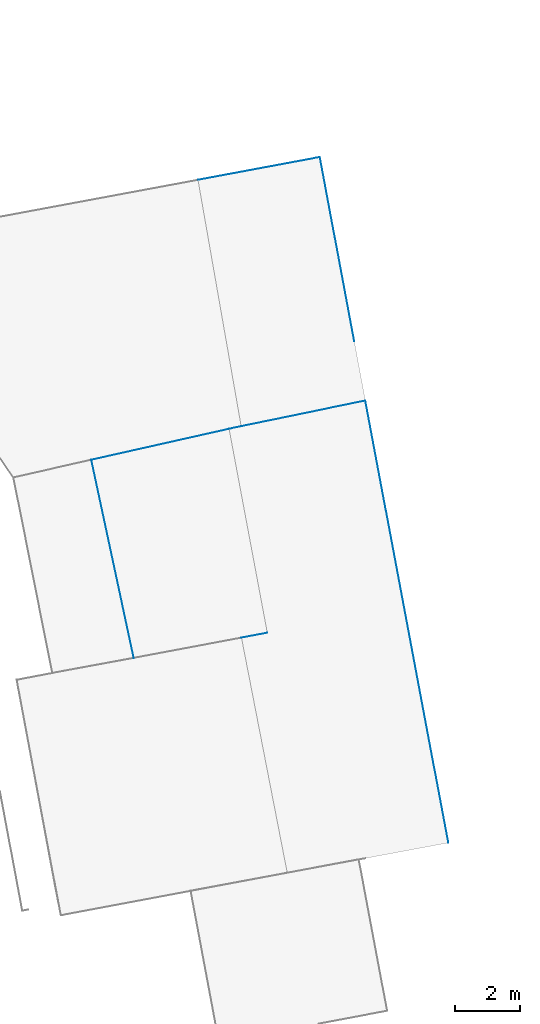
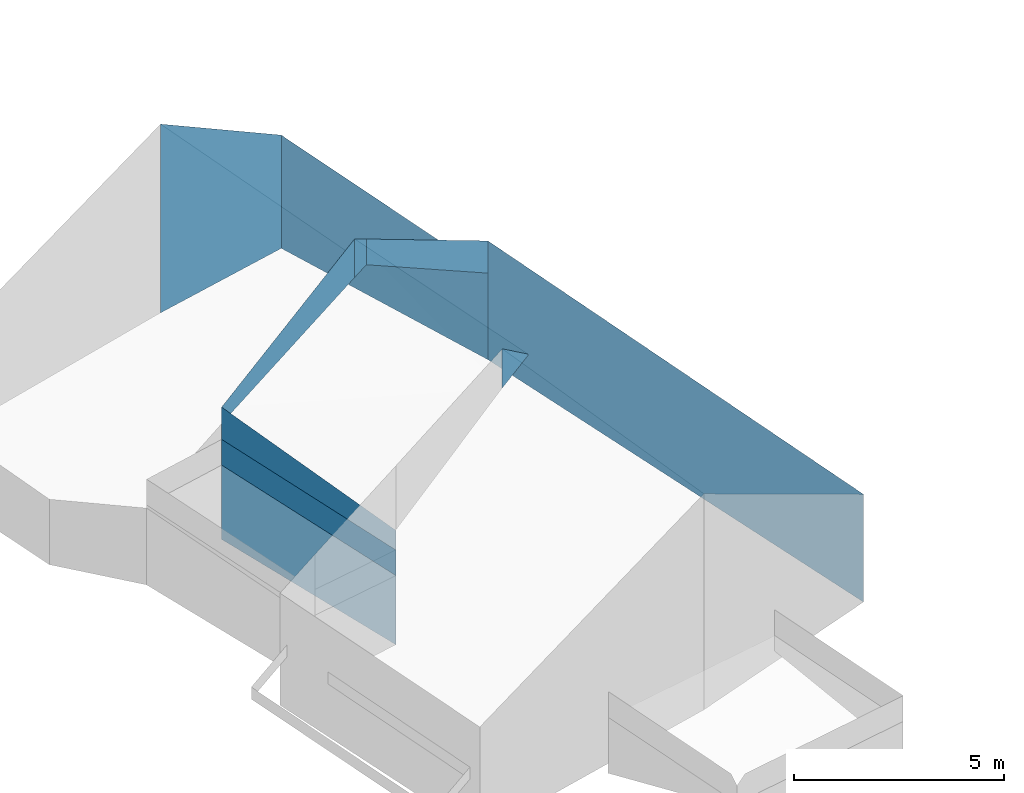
# Not in any storey, part 16 of 57: 11 walls.
"""IFC2X3 building model written with IfcOpenShell, lengths in metres."""

import ifcopenshell
import ifcopenshell.guid

model = None  # the IFC model being written
_history = None  # IfcOwnerHistory: only IFC2X3 demands one
_inside = {}  # id of a spatial element -> (the spatial element, [elements in it])
_under = {}  # id of a project, library or spatial element -> (it, [spatial elements below it])
_declared = {}  # id of a project -> (the project, [libraries it declares])
_typed = {}  # id of a type object -> (the type object, [elements of that type])
_made_of = {}  # id of a material, layer set ... -> (it, [elements and type objects made of it])


def new_model(schema):
    """Start an empty IFC model of exactly this schema.

    Asked for "IFC4X3", IfcOpenShell would pick the latest addendum, in which some entities
    have other attributes; the version numbers below select the first issue.
    IFC2X3 requires an IfcOwnerHistory on every rooted entity: one is made here for all.
    """
    global model, _history
    if schema == "IFC4X3":
        model = ifcopenshell.file(schema_version=(4, 3, 0, 0))
    else:
        model = ifcopenshell.file(schema=schema)
    _inside.clear()
    _under.clear()
    _declared.clear()
    _typed.clear()
    _made_of.clear()
    _history = None
    if model.schema == "IFC2X3":
        org = make("IfcOrganization", Name="unknown")
        user = make(
            "IfcPersonAndOrganization",
            ThePerson=make("IfcPerson", FamilyName="unknown"),
            TheOrganization=org,
        )
        app = make(
            "IfcApplication",
            ApplicationDeveloper=org,
            Version="unknown",
            ApplicationFullName="unknown",
            ApplicationIdentifier="unknown",
        )
        _history = make(
            "IfcOwnerHistory",
            OwningUser=user,
            OwningApplication=app,
            ChangeAction="ADDED",
            CreationDate=0,
        )
    return model


def make(cls, **values):
    """One entity of the class cls with the attributes given. An attribute that is None is left unset."""
    return model.create_entity(
        cls, **{name: value for name, value in values.items() if value is not None}
    )


def entity(cls, *values):
    """Any entity or typed value of the class cls, its attributes in the order of the schema. None: left unset."""
    e = model.create_entity(cls)
    for i, value in enumerate(values):
        if value is not None:
            e[i] = value
    return e


def rooted(cls, **values):
    """An entity with a GlobalId (a new one), such as an element, a storey or a relation."""
    return make(cls, GlobalId=ifcopenshell.guid.new(), OwnerHistory=_history, **values)


def si_unit(unit_type, name, prefix=None):
    """IfcSIUnit, for example si_unit("LENGTHUNIT", "METRE", prefix="MILLI")."""
    return make("IfcSIUnit", UnitType=unit_type, Prefix=prefix, Name=name)


def converted_unit(unit_type, name, factor, base, dimensions=None, offset=None):
    """IfcConversionBasedUnit, such as the inch: factor (a typed value) times the base unit."""
    return make(
        "IfcConversionBasedUnit"
        if offset is None
        else "IfcConversionBasedUnitWithOffset",
        ConversionOffset=offset,
        Dimensions=None
        if dimensions is None
        else entity("IfcDimensionalExponents", *dimensions),
        UnitType=unit_type,
        Name=name,
        ConversionFactor=make(
            "IfcMeasureWithUnit", ValueComponent=factor, UnitComponent=base
        ),
    )


def assignment(units):
    """IfcUnitAssignment: the units of a project."""
    return None if units is None else make("IfcUnitAssignment", Units=units)


def point(xyz):
    """IfcCartesianPoint."""
    return None if xyz is None else make("IfcCartesianPoint", Coordinates=xyz)


def direction(xyz):
    """IfcDirection."""
    return None if xyz is None else make("IfcDirection", DirectionRatios=xyz)


def frame(location, z_axis=None, x_axis=None):
    """IfcAxis2Placement3D, a coordinate frame: its origin and axes. An axis left out is left unset."""
    return make(
        "IfcAxis2Placement3D",
        Location=point(location),
        Axis=direction(z_axis),
        RefDirection=direction(x_axis),
    )


def origin():
    """The frame at (0, 0, 0) with its axes left unset."""
    return frame((0.0, 0.0, 0.0))


def place(relative_to, where):
    """IfcLocalPlacement: puts the frame where relative to a parent placement (None: the world)."""
    return make(
        "IfcLocalPlacement", PlacementRelTo=relative_to, RelativePlacement=where
    )


def context(
    kind, dimensions, precision=None, world=None, true_north=None, identifier=None
):
    """IfcGeometricRepresentationContext, for example the 3D "Model" context."""
    return make(
        "IfcGeometricRepresentationContext",
        ContextIdentifier=identifier,
        ContextType=kind,
        CoordinateSpaceDimension=dimensions,
        Precision=precision,
        WorldCoordinateSystem=world,
        TrueNorth=true_north,
    )


def subcontext(parent, identifier, kind, view, scale=None):
    """IfcGeometricRepresentationSubContext, for example "Body" below "Model"."""
    return make(
        "IfcGeometricRepresentationSubContext",
        ContextIdentifier=identifier,
        ContextType=kind,
        ParentContext=parent,
        TargetScale=scale,
        TargetView=view,
    )


def project(units=None, contexts=None):
    """IfcProject with its units and contexts."""
    return rooted(
        "IfcProject",
        Name="project",
        RepresentationContexts=contexts,
        UnitsInContext=assignment(units),
    )


def spatial(cls, under=None, at=None, **own):
    """A site, building, storey or space (cls), placed at a placement, below another one or the project."""
    s = rooted(cls, ObjectPlacement=at, **own)
    if under is not None:
        _under.setdefault(under.id(), (under, []))[1].append(s)
    return s


def faces_of(points, faces, orient=None, outer=None):
    """IfcFace entities. A face is a list of loops; a loop is a list of indices into points, from 0.

    orient and outer hold one flag for each loop. By default every Orientation is true, the
    first loop of a face is its IfcFaceOuterBound and the others are IfcFaceBound.
    """
    made = []
    for i, loops in enumerate(faces):
        bounds = []
        for j, loop in enumerate(loops):
            is_outer = j == 0 if outer is None else outer[i][j]
            bounds.append(
                make(
                    "IfcFaceOuterBound" if is_outer else "IfcFaceBound",
                    Bound=make("IfcPolyLoop", Polygon=[points[k] for k in loop]),
                    Orientation=True if orient is None else orient[i][j],
                )
            )
        made.append(make("IfcFace", Bounds=bounds))
    return made


def face_set(faces, orient=None, outer=None):
    """The faces of one IfcConnectedFaceSet. surface_model builds it on its shared points."""
    return ("IfcConnectedFaceSet", faces, orient, outer)


def surface_model(cls, points, shells):
    """IfcFaceBasedSurfaceModel or IfcShellBasedSurfaceModel (cls): surfaces that need not close."""
    shared = [point(p) for p in points]
    made = [make(c, CfsFaces=faces_of(shared, fs, o, b)) for c, fs, o, b in shells]
    if cls == "IfcFaceBasedSurfaceModel":
        return make(cls, FbsmFaces=made)
    return make(cls, SbsmBoundary=made)


def shape(context_of_items, identifier, shape_type, items):
    """IfcShapeRepresentation: the items that make up one representation, for example the "Body"."""
    return make(
        "IfcShapeRepresentation",
        ContextOfItems=context_of_items,
        RepresentationIdentifier=identifier,
        RepresentationType=shape_type,
        Items=items,
    )


def made_of(thing, what):
    """Note that an element or type object is made of a material, layer set ...; save() writes the relation."""
    if what is not None:
        _made_of.setdefault(what.id(), (what, []))[1].append(thing)
    return thing


def element(
    cls,
    number,
    at=None,
    inside=None,
    cuts=None,
    type_object=None,
    material=None,
    context=None,
    identifier="Body",
    shape_type=None,
    held_by="IfcProductDefinitionShape",
    body=None,
    shapes=None,
    **own,
):
    """One element of the class cls, such as IfcWall. Its Tag is "e" and its number.

    at: its placement. inside: the storey or other place that contains it. cuts: it is an
    opening in that element (IfcRelVoidsElement). A single representation is given by context,
    identifier, shape_type and body (its items); several are given by shapes. held_by: the class
    of the entity that holds the representations. save() writes the other relations.
    """
    e = rooted(cls, Tag="e%d" % number, ObjectPlacement=at, **own)
    if body is not None:
        shapes = [shape(context, identifier, shape_type, body)]
    if shapes is not None:
        e.Representation = make(held_by, Representations=shapes)
    if inside is not None:
        _inside.setdefault(inside.id(), (inside, []))[1].append(e)
    if cuts is not None:
        rooted(
            "IfcRelVoidsElement", RelatingBuildingElement=cuts, RelatedOpeningElement=e
        )
    if type_object is not None:
        _typed.setdefault(type_object.id(), (type_object, []))[1].append(e)
    return made_of(e, material)


def aggregate(whole, parts):
    """IfcRelAggregates: a whole, such as a stair, and the parts it consists of."""
    return rooted("IfcRelAggregates", RelatingObject=whole, RelatedObjects=parts)


def save(model, path):
    """Write the relations noted so far, then the file.

    IfcRelAggregates (storeys below a building ...), IfcRelContainedInSpatialStructure (elements
    in a storey), IfcRelDefinesByType, IfcRelAssociatesMaterial and IfcRelDeclares: one each for
    every whole, place, type object, material and project.
    """
    for whole, parts in _under.values():
        aggregate(whole, parts)
    for where, things in _inside.values():
        rooted(
            "IfcRelContainedInSpatialStructure",
            RelatedElements=things,
            RelatingStructure=where,
        )
    for kind, things in _typed.values():
        rooted("IfcRelDefinesByType", RelatedObjects=things, RelatingType=kind)
    for what, things in _made_of.values():
        rooted("IfcRelAssociatesMaterial", RelatedObjects=things, RelatingMaterial=what)
    for by, libraries in _declared.values():
        rooted("IfcRelDeclares", RelatingContext=by, RelatedDefinitions=libraries)
    model.write(path)


model = new_model("IFC2X3")

# Units and contexts
model_context = context("Model", 3, precision=1e-05, world=origin())
body_context = subcontext(model_context, "Body", "Model", "MODEL_VIEW")
ifc_project = project(units=[converted_unit("PLANEANGLEUNIT", "DEGREE", entity("IfcRatioMeasure", 0.0174532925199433), si_unit("PLANEANGLEUNIT", "RADIAN"), dimensions=[0, 0, 0, 0, 0, 0, 0]), si_unit("AREAUNIT", "SQUARE_METRE"), si_unit("LENGTHUNIT", "METRE")], contexts=[model_context])

# Site, building
site_placement = place(None, origin())
site = spatial("IfcSite", under=ifc_project, at=site_placement, Name="_site", CompositionType="ELEMENT")
building_placement = place(site_placement, origin())
building = spatial("IfcBuilding", under=site, at=building_placement, Name="_building", CompositionType="ELEMENT")

# Walls
wall_1_placement = place(building_placement, origin())
element("IfcWall", 1, at=wall_1_placement, inside=building, Name="Wall", context=body_context, shape_type="SurfaceModel", body=[
    surface_model("IfcFaceBasedSurfaceModel", [(180.04, 36.561, 226.04), (180.83, 36.711, 225.52), (180.83, 36.711, 225.47), (180.04, 36.561, 224.893)], [face_set([[[0, 1, 2, 3]]])]),
])
wall_2_placement = place(building_placement, origin())
element("IfcWall", 2, at=wall_2_placement, inside=building, Name="Wall", context=body_context, shape_type="SurfaceModel", body=[
    surface_model("IfcFaceBasedSurfaceModel", [(179.66, 42.948, 225.5), (180.03, 43.028, 225.319), (180.03, 43.028, 224.57), (179.66, 42.948, 224.376)], [face_set([[[0, 1, 2, 3]]])]),
])
wall_3_placement = place(building_placement, origin())
element("IfcWall", 3, at=wall_3_placement, inside=building, Name="Wall", context=body_context, shape_type="SurfaceModel", body=[
    surface_model("IfcFaceBasedSurfaceModel", [(180.03, 43.028, 225.319), (183.83, 43.811, 223.46), (183.83, 43.811, 222.52), (180.03, 43.028, 224.57)], [face_set([[[0, 1, 2, 3]]])]),
])
wall_4_placement = place(building_placement, origin())
element("IfcWall", 4, at=wall_4_placement, inside=building, Name="Wall", context=body_context, shape_type="SurfaceModel", body=[
    surface_model("IfcFaceBasedSurfaceModel", [(175.45, 42.0, 222.65), (179.66, 42.948, 225.5), (179.66, 42.948, 224.376), (175.45, 42.0, 222.17)], [face_set([[[0, 1, 2, 3]]])]),
])
wall_5_placement = place(building_placement, origin())
element("IfcWall", 5, at=wall_5_placement, inside=building, Name="Wall", context=body_context, shape_type="SurfaceModel", body=[
    surface_model("IfcFaceBasedSurfaceModel", [(178.71, 50.561, 224.56), (182.44, 51.26, 222.51), (182.44, 51.26, 219.21), (178.71, 50.561, 219.061)], [face_set([[[0, 1, 2, 3]]])]),
])
wall_6_placement = place(building_placement, origin())
element("IfcWall", 6, at=wall_6_placement, inside=building, Name="Wall", context=body_context, shape_type="SurfaceModel", body=[
    surface_model("IfcFaceBasedSurfaceModel", [(183.83, 43.811, 223.46), (186.37, 30.289, 223.39), (186.37, 30.289, 220.25), (183.83, 43.811, 220.0)], [face_set([[[0, 1, 2, 3]]])]),
])
wall_7_placement = place(building_placement, origin())
element("IfcWall", 7, at=wall_7_placement, inside=building, Name="Wall", context=body_context, shape_type="SurfaceModel", body=[
    surface_model("IfcFaceBasedSurfaceModel", [(176.75, 35.941, 222.28), (175.45, 42.0, 222.65), (175.45, 42.0, 220.76), (176.75, 35.941, 220.76)], [face_set([[[0, 1, 2, 3]]])]),
])
for number, where, name in (
    (8, (0.0, 0.0, 0.0), "Wall"),
    (9, (0.0, 0.0, 0.0), "Wall"),
):
    element("IfcWall", number, at=place(building_placement, frame(where)), inside=building, Name=name, context=body_context, shape_type="SurfaceModel", body=[
        surface_model("IfcFaceBasedSurfaceModel", [(175.45, 42.0, 220.96), (176.75, 35.939, 220.96), (176.75, 35.939, 221.71), (175.45, 42.0, 221.71)], [face_set([[[0, 1, 2, 3]]])]),
    ])
wall_8_placement = place(building_placement, origin())
element("IfcWall", 10, at=wall_8_placement, inside=building, Name="Wall", context=body_context, shape_type="SurfaceModel", body=[
    surface_model("IfcFaceBasedSurfaceModel", [(182.44, 51.26, 222.51), (183.83, 43.811, 222.52), (183.83, 43.811, 220.0), (182.44, 51.26, 219.21)], [face_set([[[0, 1, 2, 3]]])]),
])
wall_9_placement = place(building_placement, origin())
element("IfcWall", 11, at=wall_9_placement, inside=building, Name="Wall", context=body_context, shape_type="SurfaceModel", body=[
    surface_model("IfcFaceBasedSurfaceModel", [(175.45, 42.0, 220.96), (176.75, 35.939, 220.96), (176.75, 35.939, 218.949), (175.45, 42.0, 218.797)], [face_set([[[0, 1, 2, 3]]])]),
])

save(model, "model.ifc")
